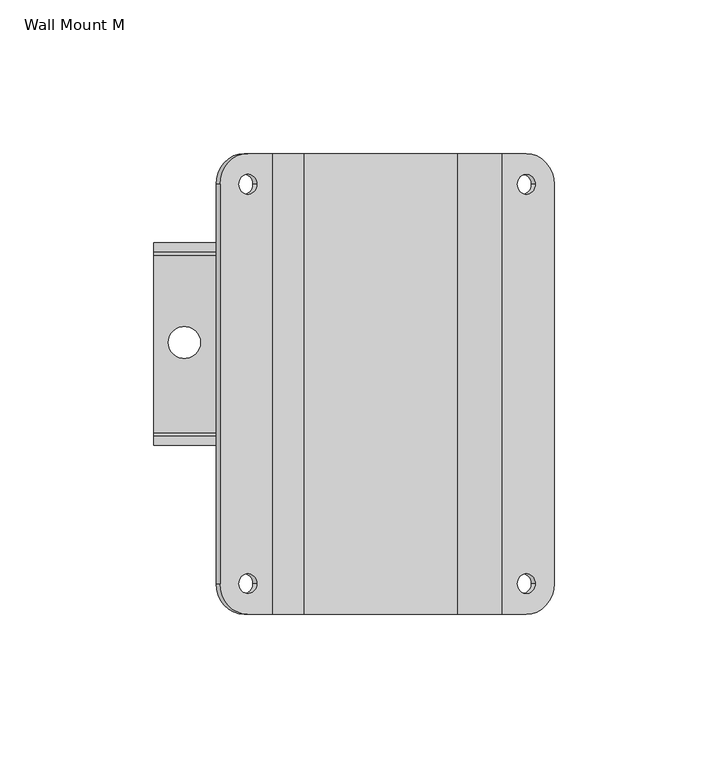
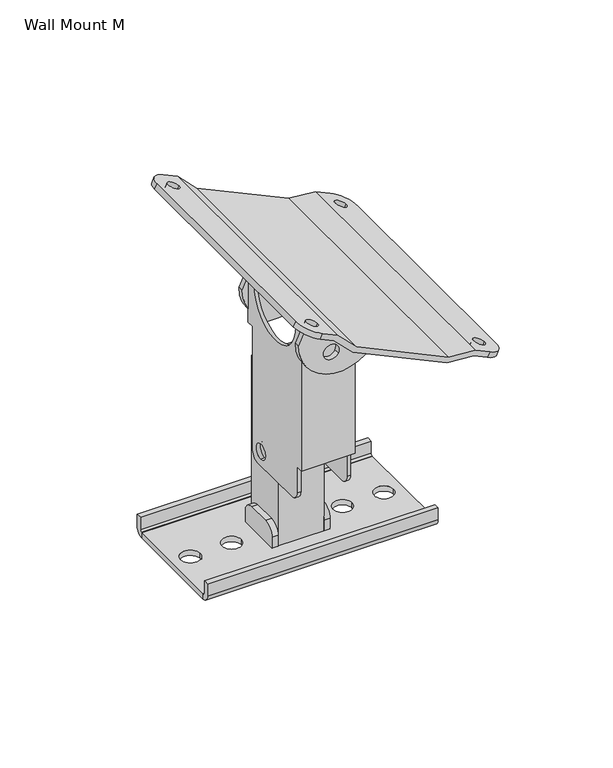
"""IFC4 building model written with IfcOpenShell, lengths in millimetres: proxy geometry, d&b xS-Series Wall Mount M : Wall Mount M."""

from ifc_helpers import new_model, si_unit, point, frame, frame_2d, origin, origin_with_axes, place, context, project, spatial, polyline, circle_curve, trimmed, segment, composite_curve, outline, extrude, source, transform, mapped, element, save
from ifc_brep_helpers import plane_surface, cylinder_surface, revolved_surface, advanced_brep


def wall_mount_m_07799ee1(model_context):
    return source(origin(), model_context, "Body", "SolidModel", [
        extrude(outline(composite_curve([segment(polyline([(12.5, 0.0), (-12.5, 0.0), (-12.5, 9.0)]), True, "CONTINUOUS"), segment(trimmed(circle_curve(frame_2d((-6.5, 9.0)), 6.0), [point((-12.5, 9.0))], [point((-6.5, 15.0))], False, "CARTESIAN"), True, "CONTINUOUS"), segment(polyline([(-6.5, 15.0), (6.5, 15.0)]), True, "CONTINUOUS"), segment(trimmed(circle_curve(frame_2d((6.5, 9.0)), 6.0), [point((6.5, 15.0))], [point((12.5, 9.0))], False, "CARTESIAN"), True, "CONTINUOUS"), segment(polyline([(12.5, 9.0), (12.5, 0.0)]), True, "CONTINUOUS")], self_intersect=False)), frame((-15.75, 0.0, 0.0), z_axis=(1.0, 0.0, 0.0), x_axis=(0.0, 1.0, 0.0)), (0.0, 0.0, 1.0), 3.25),
        extrude(outline(composite_curve([segment(polyline([(-30.0, 11.0), (-30.0, 4.0)]), True, "CONTINUOUS"), segment(trimmed(circle_curve(frame_2d((-29.0, 4.0)), 1.0), [point((-30.0, 4.0))], [point((-29.0, 3.0))], True, "CARTESIAN"), True, "CONTINUOUS"), segment(polyline([(-29.0, 3.0), (-29.0, 0.0)]), True, "CONTINUOUS"), segment(trimmed(circle_curve(frame_2d((-29.0, 4.0)), 4.0), [point((-29.0, 0.0))], [point((-33.0, 4.0))], False, "CARTESIAN"), True, "CONTINUOUS"), segment(polyline([(-33.0, 4.0), (-33.0, 11.0), (-30.0, 11.0)]), True, "CONTINUOUS")], self_intersect=False)), frame((-62.5, 0.0, 0.0), z_axis=(1.0, 0.0, 0.0), x_axis=(0.0, 1.0, 0.0)), (0.0, 0.0, 1.0), 125.0),
        extrude(outline(composite_curve([segment(polyline([(30.0, 11.0), (33.0, 11.0), (33.0, 4.0)]), True, "CONTINUOUS"), segment(trimmed(circle_curve(frame_2d((29.0, 4.0)), 4.0), [point((33.0, 4.0))], [point((29.0, 0.0))], False, "CARTESIAN"), True, "CONTINUOUS"), segment(polyline([(29.0, 0.0), (29.0, 3.0)]), True, "CONTINUOUS"), segment(trimmed(circle_curve(frame_2d((29.0, 4.0)), 1.0), [point((29.0, 3.0))], [point((30.0, 4.0))], True, "CARTESIAN"), True, "CONTINUOUS"), segment(polyline([(30.0, 4.0), (30.0, 11.0)]), True, "CONTINUOUS")], self_intersect=False)), frame((-62.5, 0.0, 0.0), z_axis=(1.0, 0.0, 0.0), x_axis=(0.0, 1.0, 0.0)), (0.0, 0.0, 1.0), 125.0),
        extrude(outline(polyline([(-62.5, -29.0), (-62.5, 29.0), (62.5, 29.0), (62.5, -29.0), (-62.5, -29.0)]), holes=[composite_curve([segment(trimmed(circle_curve(frame_2d((30.064312, 0.5249221)), 5.2287903), [point((35.2931023, 0.5249221))], [point((24.8355217, 0.5249221))], True, "CARTESIAN"), True, "CONTINUOUS"), segment(trimmed(circle_curve(frame_2d((30.064312, 0.5249221)), 5.2287903), [point((24.8355217, 0.5249221))], [point((35.2931023, 0.5249221))], True, "CARTESIAN"), True, "CONTINUOUS")], self_intersect=False), composite_curve([segment(trimmed(circle_curve(frame_2d((-30.064312, 0.5249221)), 5.2287903), [point((-24.8355217, 0.5249221))], [point((-35.2931023, 0.5249221))], True, "CARTESIAN"), True, "CONTINUOUS"), segment(trimmed(circle_curve(frame_2d((-30.064312, 0.5249221)), 5.2287903), [point((-35.2931023, 0.5249221))], [point((-24.8355217, 0.5249221))], True, "CARTESIAN"), True, "CONTINUOUS")], self_intersect=False), polyline([(-15.75, 12.5), (-15.75, -12.5), (15.75, -12.5), (15.75, 12.5), (-15.75, 12.5)]), composite_curve([segment(trimmed(circle_curve(frame_2d((52.5, 0.5249221)), 5.2287903), [point((57.7287903, 0.5249221))], [point((47.2712097, 0.5249221))], True, "CARTESIAN"), True, "CONTINUOUS"), segment(trimmed(circle_curve(frame_2d((52.5, 0.5249221)), 5.2287903), [point((47.2712097, 0.5249221))], [point((57.7287903, 0.5249221))], True, "CARTESIAN"), True, "CONTINUOUS")], self_intersect=False), composite_curve([segment(trimmed(circle_curve(frame_2d((-52.5, 0.5249221)), 5.2287903), [point((-47.2712097, 0.5249221))], [point((-57.7287903, 0.5249221))], True, "CARTESIAN"), True, "CONTINUOUS"), segment(trimmed(circle_curve(frame_2d((-52.5, 0.5249221)), 5.2287903), [point((-57.7287903, 0.5249221))], [point((-47.2712097, 0.5249221))], True, "CARTESIAN"), True, "CONTINUOUS")], self_intersect=False)]), origin_with_axes(), (0.0, 0.0, 1.0), 3.0),
        extrude(outline(composite_curve([segment(polyline([(12.5, 0.0), (-12.5, 0.0), (-12.5, 9.0)]), True, "CONTINUOUS"), segment(trimmed(circle_curve(frame_2d((-6.5, 9.0)), 6.0), [point((-12.5, 9.0))], [point((-6.5, 15.0))], False, "CARTESIAN"), True, "CONTINUOUS"), segment(polyline([(-6.5, 15.0), (6.5, 15.0)]), True, "CONTINUOUS"), segment(trimmed(circle_curve(frame_2d((6.5, 9.0)), 6.0), [point((6.5, 15.0))], [point((12.5, 9.0))], False, "CARTESIAN"), True, "CONTINUOUS"), segment(polyline([(12.5, 9.0), (12.5, 0.0)]), True, "CONTINUOUS")], self_intersect=False)), frame((12.5, 0.0, 0.0), z_axis=(1.0, 0.0, 0.0), x_axis=(0.0, 1.0, 0.0)), (0.0, 0.0, 1.0), 3.25),
        advanced_brep(
        [(-13.5085984, -88.0, 163.1012608), (-23.845808, -88.0, 173.4384704), (-31.7874323, -88.0, 177.1417106), (-33.0552871, -88.0, 174.4227872), (-25.5930823, -88.0, 170.943104), (-15.2558727, -88.0, 160.6058944), (35.5498946, -88.0, 136.914776), (50.1132869, -88.0, 135.6406443), (57.5754916, -88.0, 132.1609611), (58.8433464, -88.0, 134.8798844), (50.9017221, -88.0, 138.5831247), (36.3383299, -88.0, 139.8572564), (-13.5085984, 62.0, 163.1012608), (36.3383299, 62.0, 139.8572564), (50.9017221, 62.0, 138.5831247), (58.8433464, 62.0, 134.8798844), (57.5754916, 62.0, 132.1609611), (50.1132869, 62.0, 135.6406443), (35.5498946, 62.0, 136.914776), (-15.2558727, 62.0, 160.6058944), (-25.5930823, 62.0, 170.943104), (-33.0552871, 62.0, 174.4227872), (-31.7874323, 62.0, 177.1417106), (-23.845808, 62.0, 173.4384704), (67.9064243, -78.0, 130.6537018), (67.9064243, 52.0, 130.6537018), (61.7567177, -78.0, 133.5213571), (55.9299751, -78.0, 136.2384118), (61.7567177, 52.0, 133.5213571), (55.9299751, 52.0, 136.2384118), (66.6385695, -78.0, 127.9347785), (66.6385695, 52.0, 127.9347785), (54.6621203, 52.0, 133.5194884), (60.4888629, 52.0, 130.8024337), (54.6621203, -78.0, 133.5194884), (60.4888629, -78.0, 130.8024337), (-42.118365, -78.0, 178.6489699), (-42.118365, 52.0, 178.6489699), (-35.9686584, 52.0, 175.7813146), (-30.1419158, 52.0, 173.0642599), (-35.9686584, -78.0, 175.7813146), (-30.1419158, -78.0, 173.0642599), (-40.8505102, -78.0, 181.3678932), (-40.8505102, 52.0, 181.3678932), (-28.874061, -78.0, 175.7831833), (-34.7008036, -78.0, 178.5002379), (-28.874061, 52.0, 175.7831833), (-34.7008036, 52.0, 178.5002379)],
        [
            (0, 1),
            (1, 2),
            (2, 3),
            (3, 4),
            (4, 5),
            (5, 6),
            (6, 7),
            (7, 8),
            (8, 9),
            (9, 10),
            (10, 11),
            (11, 0),
            (12, 13),
            (13, 14),
            (14, 15),
            (15, 16),
            (16, 17),
            (17, 18),
            (18, 19),
            (19, 20),
            (20, 21),
            (21, 22),
            (22, 23),
            (23, 12),
            (11, 13),
            (12, 0),
            (10, 14),
            (9, 24, circle_curve(frame((58.8433464, -78.0, 134.8798844), z_axis=(0.42261826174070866, 0.0, 0.9063077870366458), x_axis=(0.9063077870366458, 0.0, -0.42261826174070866)), 10.0)),
            (24, 25),
            (25, 15, circle_curve(frame((58.8433464, 52.0, 134.8798844), z_axis=(0.42261826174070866, 0.0, 0.9063077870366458), x_axis=(0.9063077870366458, 0.0, -0.42261826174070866)), 10.0)),
            (26, 27, circle_curve(frame((58.8433464, -78.0, 134.8798844), z_axis=(-0.42261826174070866, 0.0, -0.9063077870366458), x_axis=(0.9063077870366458, 0.0, -0.42261826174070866)), 3.2145495)),
            (27, 26, circle_curve(frame((58.8433464, -78.0, 134.8798844), z_axis=(-0.42261826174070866, 0.0, -0.9063077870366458), x_axis=(0.9063077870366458, 0.0, -0.42261826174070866)), 3.2145495)),
            (28, 29, circle_curve(frame((58.8433464, 52.0, 134.8798844), z_axis=(-0.42261826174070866, 0.0, -0.9063077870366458), x_axis=(0.9063077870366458, 0.0, -0.42261826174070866)), 3.2145495)),
            (29, 28, circle_curve(frame((58.8433464, 52.0, 134.8798844), z_axis=(-0.42261826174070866, 0.0, -0.9063077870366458), x_axis=(0.9063077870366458, 0.0, -0.42261826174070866)), 3.2145495)),
            (24, 30),
            (30, 31),
            (31, 25),
            (7, 17),
            (16, 31, circle_curve(frame((57.5754916, 52.0, 132.1609611), z_axis=(-0.42261826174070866, 0.0, -0.9063077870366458), x_axis=(0.9063077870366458, 0.0, -0.42261826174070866)), 10.0)),
            (30, 8, circle_curve(frame((57.5754916, -78.0, 132.1609611), z_axis=(-0.42261826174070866, 0.0, -0.9063077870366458), x_axis=(0.9063077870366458, 0.0, -0.42261826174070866)), 10.0)),
            (32, 33, circle_curve(frame((57.5754916, 52.0, 132.1609611), z_axis=(0.42261826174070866, 0.0, 0.9063077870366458), x_axis=(0.9063077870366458, 0.0, -0.42261826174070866)), 3.2145495)),
            (33, 32, circle_curve(frame((57.5754916, 52.0, 132.1609611), z_axis=(0.42261826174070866, 0.0, 0.9063077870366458), x_axis=(0.9063077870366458, 0.0, -0.42261826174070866)), 3.2145495)),
            (34, 35, circle_curve(frame((57.5754916, -78.0, 132.1609611), z_axis=(0.42261826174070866, 0.0, 0.9063077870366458), x_axis=(0.9063077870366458, 0.0, -0.42261826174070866)), 3.2145495)),
            (35, 34, circle_curve(frame((57.5754916, -78.0, 132.1609611), z_axis=(0.42261826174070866, 0.0, 0.9063077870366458), x_axis=(0.9063077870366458, 0.0, -0.42261826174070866)), 3.2145495)),
            (6, 18),
            (5, 19),
            (4, 20),
            (3, 36, circle_curve(frame((-33.0552871, -78.0, 174.4227872), z_axis=(-0.42261826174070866, 0.0, -0.9063077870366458), x_axis=(0.9063077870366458, 0.0, -0.42261826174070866)), 10.0)),
            (36, 37),
            (37, 21, circle_curve(frame((-33.0552871, 52.0, 174.4227872), z_axis=(-0.42261826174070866, 0.0, -0.9063077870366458), x_axis=(0.9063077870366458, 0.0, -0.42261826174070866)), 10.0)),
            (38, 39, circle_curve(frame((-33.0552871, 52.0, 174.4227872), z_axis=(0.42261826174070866, 0.0, 0.9063077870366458), x_axis=(0.9063077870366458, 0.0, -0.42261826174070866)), 3.2145495)),
            (39, 38, circle_curve(frame((-33.0552871, 52.0, 174.4227872), z_axis=(0.42261826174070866, 0.0, 0.9063077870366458), x_axis=(0.9063077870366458, 0.0, -0.42261826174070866)), 3.2145495)),
            (40, 41, circle_curve(frame((-33.0552871, -78.0, 174.4227872), z_axis=(0.42261826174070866, 0.0, 0.9063077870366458), x_axis=(0.9063077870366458, 0.0, -0.42261826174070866)), 3.2145495)),
            (41, 40, circle_curve(frame((-33.0552871, -78.0, 174.4227872), z_axis=(0.42261826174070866, 0.0, 0.9063077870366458), x_axis=(0.9063077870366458, 0.0, -0.42261826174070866)), 3.2145495)),
            (36, 42),
            (42, 43),
            (43, 37),
            (1, 23),
            (22, 43, circle_curve(frame((-31.7874323, 52.0, 177.1417106), z_axis=(0.42261826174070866, 0.0, 0.9063077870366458), x_axis=(0.9063077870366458, 0.0, -0.42261826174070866)), 10.0)),
            (42, 2, circle_curve(frame((-31.7874323, -78.0, 177.1417106), z_axis=(0.42261826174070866, 0.0, 0.9063077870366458), x_axis=(0.9063077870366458, 0.0, -0.42261826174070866)), 10.0)),
            (44, 45, circle_curve(frame((-31.7874323, -78.0, 177.1417106), z_axis=(-0.42261826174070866, 0.0, -0.9063077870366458), x_axis=(0.9063077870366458, 0.0, -0.42261826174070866)), 3.2145495)),
            (45, 44, circle_curve(frame((-31.7874323, -78.0, 177.1417106), z_axis=(-0.42261826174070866, 0.0, -0.9063077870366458), x_axis=(0.9063077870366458, 0.0, -0.42261826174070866)), 3.2145495)),
            (46, 47, circle_curve(frame((-31.7874323, 52.0, 177.1417106), z_axis=(-0.42261826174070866, 0.0, -0.9063077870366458), x_axis=(0.9063077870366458, 0.0, -0.42261826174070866)), 3.2145495)),
            (47, 46, circle_curve(frame((-31.7874323, 52.0, 177.1417106), z_axis=(-0.42261826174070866, 0.0, -0.9063077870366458), x_axis=(0.9063077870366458, 0.0, -0.42261826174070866)), 3.2145495)),
            (38, 47),
            (46, 39),
            (32, 29),
            (28, 33),
            (40, 45),
            (44, 41),
            (34, 27),
            (26, 35),
        ],
        [
            plane_surface(frame((36.3383299, -88.0, 139.8572564), z_axis=(0.0, -1.0, 0.0), x_axis=(-0.9063077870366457, 0.0, 0.4226182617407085))),
            plane_surface(frame((36.3383299, 62.0, 139.8572564), z_axis=(0.0, 1.0, 0.0), x_axis=(0.9063077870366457, 0.0, -0.4226182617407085))),
            plane_surface(frame((-13.5085984, 62.0, 163.1012608), z_axis=(0.4226182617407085, 0.0, 0.9063077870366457), x_axis=(0.0, -1.0, 0.0))),
            plane_surface(frame((36.3383299, 62.0, 139.8572564), z_axis=(0.08715574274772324, 0.0, 0.9961946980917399), x_axis=(0.0, -1.0, 0.0))),
            plane_surface(frame((50.9017221, 62.0, 138.5831247), z_axis=(0.42261826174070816, 0.0, 0.9063077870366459), x_axis=(0.0, -1.0, 0.0))),
            plane_surface(frame((67.9064243, 62.0, 130.6537018), z_axis=(0.9063077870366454, 0.0, -0.4226182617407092), x_axis=(0.0, -1.0, 0.0))),
            plane_surface(frame((66.6385695, 62.0, 127.9347785), z_axis=(-0.42261826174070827, 0.0, -0.9063077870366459), x_axis=(0.0, -1.0, 0.0))),
            plane_surface(frame((50.1132869, 62.0, 135.6406443), z_axis=(-0.08715574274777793, 0.0, -0.9961946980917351), x_axis=(0.0, -1.0, 0.0))),
            plane_surface(frame((35.5498946, 62.0, 136.914776), z_axis=(-0.4226182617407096, 0.0, -0.9063077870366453), x_axis=(0.0, -1.0, 0.0))),
            plane_surface(frame((-15.2558727, 62.0, 160.6058944), z_axis=(-0.7071067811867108, 0.0, -0.7071067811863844), x_axis=(0.0, -1.0, 0.0))),
            plane_surface(frame((-25.5930823, 62.0, 170.943104), z_axis=(-0.42261826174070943, 0.0, -0.9063077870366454), x_axis=(0.0, -1.0, 0.0))),
            plane_surface(frame((-42.118365, 62.0, 178.6489699), z_axis=(-0.9063077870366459, 0.0, 0.4226182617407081), x_axis=(0.0, -1.0, 0.0))),
            plane_surface(frame((-40.8505102, 62.0, 181.3678932), z_axis=(0.42261826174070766, 0.0, 0.9063077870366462), x_axis=(0.0, -1.0, 0.0))),
            plane_surface(frame((-23.845808, 62.0, 173.4384704), z_axis=(0.7071067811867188, 0.0, 0.7071067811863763), x_axis=(0.0, -1.0, 0.0))),
            cylinder_surface(frame((-33.9005236, 52.0, 172.6101717), z_axis=(-0.42261826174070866, 0.0, -0.9063077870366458), x_axis=(0.9063077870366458, 0.0, -0.42261826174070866)), 10.0),
            cylinder_surface(frame((-31.7874323, -78.0, 177.1417106), z_axis=(-0.42261826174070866, 0.0, -0.9063077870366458), x_axis=(0.9063077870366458, 0.0, -0.42261826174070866)), 10.0),
            cylinder_surface(frame((58.8433464, 52.0, 134.8798844), z_axis=(-0.42261826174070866, 0.0, -0.9063077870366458), x_axis=(0.9063077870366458, 0.0, -0.42261826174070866)), 10.0),
            cylinder_surface(frame((58.8433464, -78.0, 134.8798844), z_axis=(-0.42261826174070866, 0.0, -0.9063077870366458), x_axis=(0.9063077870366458, 0.0, -0.42261826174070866)), 10.0),
            revolved_surface(polyline([(-28.874061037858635, 52.0, 175.78318331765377), (-30.141915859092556, 52.0, 173.06425987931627)]), (-31.7874323, 52.0, 177.1417106), (0.42261826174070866, 0.0, 0.9063077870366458)),
            revolved_surface(polyline([(61.756717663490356, 52.0, 133.5213571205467), (60.488862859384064, 52.0, 130.8024337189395)]), (58.8433464, 52.0, 134.8798844), (0.42261826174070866, 0.0, 0.9063077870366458)),
            revolved_surface(polyline([(-28.874061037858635, -78.0, 175.78318331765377), (-30.141915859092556, -78.0, 173.06425987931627)]), (-31.7874323, -78.0, 177.1417106), (0.42261826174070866, 0.0, 0.9063077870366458)),
            revolved_surface(polyline([(61.756717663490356, -78.0, 133.5213571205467), (60.488862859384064, -78.0, 130.8024337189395)]), (58.8433464, -78.0, 134.8798844), (0.42261826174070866, 0.0, 0.9063077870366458)),
        ],
        [
            (0, [[1, 2, 3, 4, 5, 6, 7, 8, 9, 10, 11, 12]]),
            (1, [[13, 14, 15, 16, 17, 18, 19, 20, 21, 22, 23, 24]]),
            (2, [[-12, 25, -13, 26]]),
            (3, [[-11, 27, -14, -25]]),
            (4, [[-27, -10, 28, 29, 30, -15], [31, 32], [33, 34]]),
            (5, [[-29, 35, 36, 37]]),
            (6, [[38, -17, 39, -36, 40, -8], [41, 42], [43, 44]]),
            (7, [[-7, 45, -18, -38]]),
            (8, [[-6, 46, -19, -45]]),
            (9, [[-5, 47, -20, -46]]),
            (10, [[-47, -4, 48, 49, 50, -21], [51, 52], [53, 54]]),
            (11, [[-49, 55, 56, 57]]),
            (12, [[58, -23, 59, -56, 60, -2], [61, 62], [63, 64]]),
            (13, [[-1, -26, -24, -58]]),
            (14, [[-22, -50, -57, -59]]),
            (15, [[-3, -60, -55, -48]]),
            (16, [[-16, -30, -37, -39]]),
            (17, [[-9, -40, -35, -28]]),
            (18, [[65, -63, 66, -51]]),
            (18, [[-65, -52, -66, -64]]),
            (19, [[67, -33, 68, -41]]),
            (19, [[-67, -42, -68, -34]]),
            (20, [[69, -61, 70, -53]]),
            (20, [[-69, -54, -70, -62]]),
            (21, [[71, -31, 72, -43]]),
            (21, [[-71, -44, -72, -32]]),
        ],
    ),
        extrude(outline(composite_curve([segment(polyline([(140.30797, 28.2731667), (157.2127005, -7.9791448), (136.2179434, -17.7691608)]), True, "CONTINUOUS"), segment(trimmed(circle_curve(frame_2d((136.0862848, 4.2370042)), 22.0065588), [point((136.2179434, -17.7691608))], [point((119.3132129, 18.4831507))], False, "CARTESIAN"), True, "CONTINUOUS"), segment(polyline([(119.3132129, 18.4831507), (140.30797, 28.2731667)]), True, "CONTINUOUS")], self_intersect=False), holes=[composite_curve([segment(trimmed(circle_curve(frame_2d((127.0, 0.0)), 4.2329785), [point((125.211066, 3.8363813))], [point((128.788934, -3.8363813))], True, "CARTESIAN"), True, "CONTINUOUS"), segment(trimmed(circle_curve(frame_2d((127.0, 0.0)), 4.2329785), [point((128.788934, -3.8363813))], [point((125.211066, 3.8363813))], True, "CARTESIAN"), True, "CONTINUOUS")], self_intersect=False)]), frame((0.0, -41.0, 0.0), z_axis=(0.0, 1.0, 0.0), x_axis=(0.0, 0.0, 1.0)), (0.0, 0.0, 1.0), 3.0),
        extrude(outline(composite_curve([segment(polyline([(140.30797, 28.2731667), (157.2127005, -7.9791448), (136.2179434, -17.7691608)]), True, "CONTINUOUS"), segment(trimmed(circle_curve(frame_2d((136.0862848, 4.2370042)), 22.0065588), [point((136.2179434, -17.7691608))], [point((119.3132129, 18.4831507))], False, "CARTESIAN"), True, "CONTINUOUS"), segment(polyline([(119.3132129, 18.4831507), (140.30797, 28.2731667)]), True, "CONTINUOUS")], self_intersect=False), holes=[composite_curve([segment(trimmed(circle_curve(frame_2d((127.0, 0.0)), 4.2329785), [point((125.211066, 3.8363813))], [point((128.788934, -3.8363813))], True, "CARTESIAN"), True, "CONTINUOUS"), segment(trimmed(circle_curve(frame_2d((127.0, 0.0)), 4.2329785), [point((128.788934, -3.8363813))], [point((125.211066, 3.8363813))], True, "CARTESIAN"), True, "CONTINUOUS")], self_intersect=False)]), frame((0.0, 12.0, 0.0), z_axis=(0.0, 1.0, 0.0), x_axis=(0.0, 0.0, 1.0)), (0.0, 0.0, 1.0), 3.0),
        advanced_brep(
        [(-12.5, -29.0, 42.0), (-12.5, 3.0, 42.0), (-12.5, 8.0, 47.0), (-12.5, 8.0, 117.0), (-12.5, 8.0, 142.0), (-12.5, 7.0, 142.0), (-12.5, -33.0, 142.0), (-12.5, -34.0, 142.0), (-12.5, -34.0, 62.0), (-12.5, -34.0, 47.0), (-12.5, 0.0, 45.7640032), (-12.5, 0.0, 54.2359968), (-14.5, -29.0, 42.0), (-14.5, -34.0, 47.0), (-14.5, -34.0, 62.0), (-14.5, -38.0, 62.0), (-14.5, -38.0, 142.0), (-14.5, -33.0, 142.0), (-14.5, 7.0, 142.0), (-14.5, 12.0, 142.0), (-14.5, 12.0, 117.0), (-14.5, 8.0, 117.0), (-14.5, 8.0, 47.0), (-14.5, 3.0, 42.0), (-14.5, 0.0, 45.7640032), (-14.5, 0.0, 54.2359968), (12.5, 8.0, 142.0), (12.5, 7.0, 142.0), (14.5, 7.0, 142.0), (14.5, 12.0, 142.0), (14.5, -38.0, 142.0), (14.5, -33.0, 142.0), (12.5, -33.0, 142.0), (12.5, -34.0, 142.0), (14.5, -38.0, 62.0), (14.5, -34.0, 62.0), (14.5, -34.0, 47.0), (14.5, -29.0, 42.0), (14.5, 3.0, 42.0), (14.5, 8.0, 47.0), (14.5, 8.0, 117.0), (14.5, 12.0, 117.0), (14.5, 0.0, 45.7640032), (14.5, 0.0, 54.2359968), (12.5, -34.0, 62.0), (12.5, 8.0, 117.0), (12.5, -29.0, 42.0), (12.5, -34.0, 47.0), (12.5, 8.0, 47.0), (12.5, 3.0, 42.0), (12.5, 0.0, 45.7640032), (12.5, 0.0, 54.2359968)],
        [
            (0, 1),
            (1, 2, circle_curve(frame((-12.5, 3.0, 47.0), z_axis=(1.0, 0.0, 0.0), x_axis=(0.0, 0.0, 1.0)), 5.0)),
            (2, 3),
            (3, 4),
            (4, 5),
            (5, 6, circle_curve(frame((-12.5, -13.0, 142.0), z_axis=(-1.0, 0.0, 0.0), x_axis=(0.0, 0.0, 1.0)), 20.0)),
            (6, 7),
            (7, 8),
            (8, 9),
            (9, 0, circle_curve(frame((-12.5, -29.0, 47.0), z_axis=(1.0, 0.0, 0.0), x_axis=(0.0, 0.0, 1.0)), 5.0)),
            (10, 11, circle_curve(frame((-12.5, 0.0, 50.0), z_axis=(-1.0, 0.0, 0.0), x_axis=(0.0, 0.0, 1.0)), 4.2359968)),
            (11, 10, circle_curve(frame((-12.5, 0.0, 50.0), z_axis=(-1.0, 0.0, 0.0), x_axis=(0.0, 0.0, 1.0)), 4.2359968)),
            (12, 13, circle_curve(frame((-14.5, -29.0, 47.0), z_axis=(-1.0, 0.0, 0.0), x_axis=(0.0, 0.0, 1.0)), 5.0)),
            (13, 14),
            (14, 15),
            (15, 16),
            (16, 17),
            (17, 18, circle_curve(frame((-14.5, -13.0, 142.0), z_axis=(1.0, 0.0, 0.0), x_axis=(0.0, 0.0, 1.0)), 20.0)),
            (18, 19),
            (19, 20),
            (20, 21),
            (21, 22),
            (22, 23, circle_curve(frame((-14.5, 3.0, 47.0), z_axis=(-1.0, 0.0, 0.0), x_axis=(0.0, 0.0, 1.0)), 5.0)),
            (23, 12),
            (24, 25, circle_curve(frame((-14.5, 0.0, 50.0), z_axis=(1.0, 0.0, 0.0), x_axis=(0.0, 0.0, 1.0)), 4.2359968)),
            (25, 24, circle_curve(frame((-14.5, 0.0, 50.0), z_axis=(1.0, 0.0, 0.0), x_axis=(0.0, 0.0, 1.0)), 4.2359968)),
            (0, 12),
            (23, 1),
            (22, 2),
            (21, 3),
            (4, 26),
            (26, 27),
            (27, 28),
            (28, 29),
            (29, 19),
            (18, 5),
            (17, 6),
            (16, 30),
            (30, 31),
            (31, 32),
            (32, 33),
            (33, 7),
            (13, 9),
            (8, 14),
            (10, 24),
            (25, 11),
            (30, 34),
            (34, 35),
            (35, 36),
            (36, 37, circle_curve(frame((14.5, -29.0, 47.0), z_axis=(1.0, 0.0, 0.0), x_axis=(0.0, 0.0, 1.0)), 5.0)),
            (37, 38),
            (38, 39, circle_curve(frame((14.5, 3.0, 47.0), z_axis=(1.0, 0.0, 0.0), x_axis=(0.0, 0.0, 1.0)), 5.0)),
            (39, 40),
            (40, 41),
            (41, 29),
            (28, 31, circle_curve(frame((14.5, -13.0, 142.0), z_axis=(-1.0, 0.0, 0.0), x_axis=(0.0, 0.0, 1.0)), 20.0)),
            (42, 43, circle_curve(frame((14.5, 0.0, 50.0), z_axis=(-1.0, 0.0, 0.0), x_axis=(0.0, 0.0, 1.0)), 4.2359968)),
            (43, 42, circle_curve(frame((14.5, 0.0, 50.0), z_axis=(-1.0, 0.0, 0.0), x_axis=(0.0, 0.0, 1.0)), 4.2359968)),
            (15, 34),
            (33, 44),
            (44, 8),
            (3, 45),
            (45, 26),
            (41, 20),
            (46, 47, circle_curve(frame((12.5, -29.0, 47.0), z_axis=(-1.0, 0.0, 0.0), x_axis=(0.0, 0.0, 1.0)), 5.0)),
            (47, 44),
            (32, 27, circle_curve(frame((12.5, -13.0, 142.0), z_axis=(1.0, 0.0, 0.0), x_axis=(0.0, 0.0, 1.0)), 20.0)),
            (45, 48),
            (48, 49, circle_curve(frame((12.5, 3.0, 47.0), z_axis=(-1.0, 0.0, 0.0), x_axis=(0.0, 0.0, 1.0)), 5.0)),
            (49, 46),
            (50, 51, circle_curve(frame((12.5, 0.0, 50.0), z_axis=(1.0, 0.0, 0.0), x_axis=(0.0, 0.0, 1.0)), 4.2359968)),
            (51, 50, circle_curve(frame((12.5, 0.0, 50.0), z_axis=(1.0, 0.0, 0.0), x_axis=(0.0, 0.0, 1.0)), 4.2359968)),
            (49, 38),
            (37, 46),
            (48, 39),
            (45, 40),
            (47, 36),
            (35, 44),
            (51, 43),
            (42, 50),
        ],
        [
            plane_surface(frame((-12.5, 3.0, 42.0), z_axis=(1.0, 0.0, 0.0), x_axis=(0.0, 1.0, 0.0))),
            plane_surface(frame((-14.5, 3.0, 42.0), z_axis=(-1.0, 0.0, 0.0), x_axis=(0.0, -1.0, 0.0))),
            plane_surface(frame((-12.5, -29.0, 42.0), z_axis=(0.0, 0.0, -1.0), x_axis=(-1.0, 0.0, 0.0))),
            cylinder_surface(frame((-14.5, 3.0, 47.0), z_axis=(1.0, 0.0, 0.0), x_axis=(0.0, 0.0, 1.0)), 5.0),
            plane_surface(frame((-12.5, 8.0, 47.0), z_axis=(0.0, 1.0, 0.0), x_axis=(-1.0, 0.0, 0.0))),
            plane_surface(frame((-12.5, 8.0, 142.0), z_axis=(0.0, 0.0, 1.0), x_axis=(-1.0, 0.0, 0.0))),
            revolved_surface(polyline([(-14.5, -13.0, 162.0), (-12.5, -13.0, 162.0)]), (-14.5, -13.0, 142.0), (-1.0, 0.0, 0.0)),
            plane_surface(frame((-12.5, -33.0, 142.0), z_axis=(0.0, 0.0, 1.0), x_axis=(-1.0, 0.0, 0.0))),
            plane_surface(frame((-12.5, -34.0, 142.0), z_axis=(0.0, -1.0, 0.0), x_axis=(-1.0, 0.0, 0.0))),
            cylinder_surface(frame((-14.5, -29.0, 47.0), z_axis=(1.0, 0.0, 0.0), x_axis=(0.0, 0.0, 1.0)), 5.0),
            revolved_surface(polyline([(-14.5, 0.0, 54.2359968), (-12.5, 0.0, 54.2359968)]), (0.0, 0.0, 50.0), (-1.0, 0.0, 0.0)),
            plane_surface(frame((14.5, -38.0, 142.0), z_axis=(1.0, 0.0, 0.0), x_axis=(0.0, 0.0, -1.0))),
            plane_surface(frame((14.5, -38.0, 142.0), z_axis=(0.0, -1.0, 0.0), x_axis=(-1.0, 0.0, 0.0))),
            plane_surface(frame((14.5, -34.0, 62.0), z_axis=(0.0, 1.0, 0.0), x_axis=(-1.0, 0.0, 0.0))),
            plane_surface(frame((14.5, 8.0, 142.0), z_axis=(0.0, -1.0, 0.0), x_axis=(-1.0, 0.0, 0.0))),
            plane_surface(frame((14.5, 12.0, 117.0), z_axis=(0.0, 1.0, 0.0), x_axis=(-1.0, 0.0, 0.0))),
            plane_surface(frame((12.5, 3.0, 42.0), z_axis=(-1.0, 0.0, 0.0), x_axis=(0.0, -1.0, 0.0))),
            plane_surface(frame((14.5, -29.0, 42.0), z_axis=(0.0, 0.0, -1.0), x_axis=(-1.0, 0.0, 0.0))),
            cylinder_surface(frame((12.5, 3.0, 47.0), z_axis=(1.0, 0.0, 0.0), x_axis=(0.0, 0.0, 1.0)), 5.0),
            plane_surface(frame((14.5, 8.0, 47.0), z_axis=(0.0, 1.0, 0.0), x_axis=(-1.0, 0.0, 0.0))),
            revolved_surface(polyline([(12.5, -13.0, 162.0), (14.5, -13.0, 162.0)]), (12.5, -13.0, 142.0), (-1.0, 0.0, 0.0)),
            plane_surface(frame((14.5, -34.0, 142.0), z_axis=(0.0, -1.0, 0.0), x_axis=(-1.0, 0.0, 0.0))),
            cylinder_surface(frame((12.5, -29.0, 47.0), z_axis=(1.0, 0.0, 0.0), x_axis=(0.0, 0.0, 1.0)), 5.0),
            revolved_surface(polyline([(12.5, 0.0, 54.2359968), (14.5, 0.0, 54.2359968)]), (0.0, 0.0, 50.0), (-1.0, 0.0, 0.0)),
            plane_surface(frame((14.5, -38.0, 62.0), z_axis=(0.0, 0.0, -1.0), x_axis=(-1.0, 0.0, 0.0))),
            plane_surface(frame((14.5, 8.0, 117.0), z_axis=(0.0, 0.0, -1.0), x_axis=(-1.0, 0.0, 0.0))),
        ],
        [
            (0, [[1, 2, 3, 4, 5, 6, 7, 8, 9, 10], [11, 12]]),
            (1, [[13, 14, 15, 16, 17, 18, 19, 20, 21, 22, 23, 24], [25, 26]]),
            (2, [[-1, 27, -24, 28]]),
            (3, [[-2, -28, -23, 29]]),
            (4, [[-29, -22, 30, -3]]),
            (5, [[-5, 31, 32, 33, 34, 35, -19, 36]]),
            (6, [[-6, -36, -18, 37]]),
            (7, [[-7, -37, -17, 38, 39, 40, 41, 42]]),
            (8, [[43, -9, 44, -14]]),
            (9, [[-10, -43, -13, -27]]),
            (10, [[-11, 45, -26, 46]]),
            (10, [[-12, -46, -25, -45]]),
            (11, [[-39, 47, 48, 49, 50, 51, 52, 53, 54, 55, -34, 56], [57, 58]]),
            (12, [[-47, -38, -16, 59]]),
            (13, [[-8, -42, 60, 61]]),
            (14, [[-4, 62, 63, -31]]),
            (15, [[-55, 64, -20, -35]]),
            (16, [[65, 66, -60, -41, 67, -32, -63, 68, 69, 70], [71, 72]]),
            (17, [[-70, 73, -51, 74]]),
            (18, [[-69, 75, -52, -73]]),
            (19, [[-75, -68, 76, -53]]),
            (20, [[-67, -40, -56, -33]]),
            (21, [[77, -49, 78, -66]]),
            (22, [[-65, -74, -50, -77]]),
            (23, [[-72, 79, -57, 80]]),
            (23, [[-71, -80, -58, -79]]),
            (24, [[-48, -59, -15, -44, -61, -78]]),
            (25, [[-54, -76, -62, -30, -21, -64]]),
        ],
    ),
        extrude(outline(polyline([(12.5, 12.5), (12.5, -12.5), (-12.5, -12.5), (-12.5, 12.5), (12.5, 12.5)]), holes=[polyline([(10.5, 10.5), (-10.5, 10.5), (-10.5, -10.5), (10.5, -10.5), (10.5, 10.5)])]), origin_with_axes(), (0.0, 0.0, 1.0), 97.0),
    ])


if __name__ == "__main__":
    model = new_model("IFC4")
    model_context = context("Model", 3, world=origin())
    ifc_project = project(units=[si_unit("LENGTHUNIT", "METRE", prefix="MILLI")], contexts=[model_context])
    site = spatial("IfcSite", under=ifc_project)
    building = spatial("IfcBuilding", under=site)
    placement = place(None, origin())
    wall_mount_m_shape = wall_mount_m_07799ee1(model_context)
    element("IfcBuildingElementProxy", 1, Name="d&b xS-Series Wall Mount M : Wall Mount M", ObjectType="d&b xS-Series Wall Mount M : Wall Mount M", at=placement, inside=building, context=model_context, shape_type="MappedRepresentation", body=[
        mapped(wall_mount_m_shape, transform((0.0, 0.0, 0.0), x_axis=(1.0, 0.0, 0.0), y_axis=(0.0, 1.0, 0.0), z_axis=(0.0, 0.0, 1.0))),
    ])
    save(model, "model.ifc")
